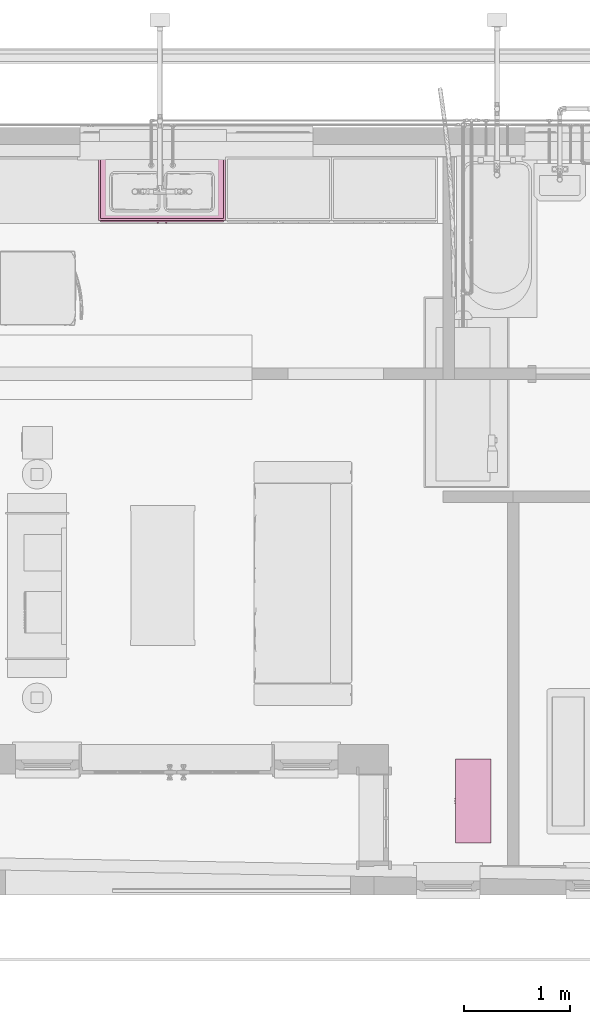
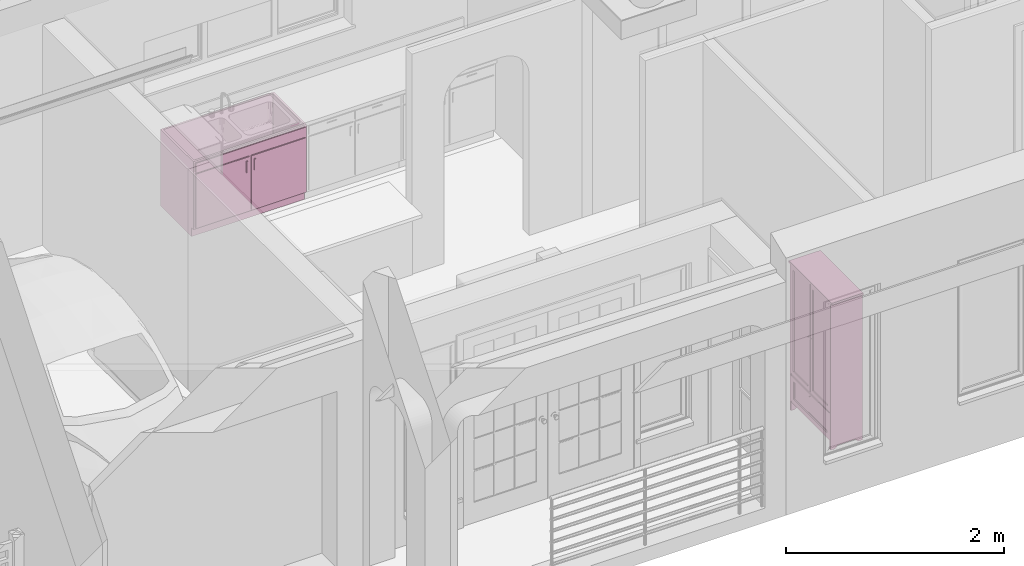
# One storey, part 39 of 41: 2 furnishings.
"""IFC2X3 building model written with IfcOpenShell, lengths in millimetres."""

from ifc_helpers import new_model, entity, si_unit, converted_unit, derived_unit, direction, frame, origin, place, context, subcontext, project, spatial, face_set, faceted_brep, surface_model, source, transform, mapped, material, material_list, type_object, type_shapes, element, save


model = new_model("IFC2X3")

# Units and contexts
model_context = context("Model", 3, precision=0.01, world=origin(), true_north=direction((6.12303176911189e-17, 1.0)))
body_context = subcontext(model_context, "Body", "Model", "MODEL_VIEW")
ifc_project = project(units=[si_unit("LENGTHUNIT", "METRE", prefix="MILLI"), si_unit("AREAUNIT", "SQUARE_METRE"), si_unit("VOLUMEUNIT", "CUBIC_METRE"), converted_unit("PLANEANGLEUNIT", "DEGREE", entity("IfcRatioMeasure", 0.0174532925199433), si_unit("PLANEANGLEUNIT", "RADIAN"), dimensions=[0, 0, 0, 0, 0, 0, 0]), si_unit("MASSUNIT", "GRAM", prefix="KILO"), derived_unit("MASSDENSITYUNIT", [(si_unit("MASSUNIT", "GRAM", prefix="KILO"), 1), (si_unit("LENGTHUNIT", "METRE"), -3)]), si_unit("TIMEUNIT", "SECOND"), si_unit("FREQUENCYUNIT", "HERTZ"), si_unit("THERMODYNAMICTEMPERATUREUNIT", "DEGREE_CELSIUS"), derived_unit("THERMALTRANSMITTANCEUNIT", [(si_unit("MASSUNIT", "GRAM", prefix="KILO"), 1), (si_unit("THERMODYNAMICTEMPERATUREUNIT", "KELVIN"), -1), (si_unit("TIMEUNIT", "SECOND"), -3)]), derived_unit("VOLUMETRICFLOWRATEUNIT", [(si_unit("LENGTHUNIT", "METRE"), 3), (si_unit("TIMEUNIT", "SECOND"), -1)]), si_unit("ELECTRICCURRENTUNIT", "AMPERE"), si_unit("ELECTRICVOLTAGEUNIT", "VOLT"), si_unit("POWERUNIT", "WATT"), si_unit("FORCEUNIT", "NEWTON", prefix="KILO"), si_unit("ILLUMINANCEUNIT", "LUX"), si_unit("LUMINOUSFLUXUNIT", "LUMEN"), si_unit("LUMINOUSINTENSITYUNIT", "CANDELA"), derived_unit("USERDEFINED", [(si_unit("MASSUNIT", "GRAM", prefix="KILO"), -1), (si_unit("LENGTHUNIT", "METRE"), -2), (si_unit("TIMEUNIT", "SECOND"), 3), (si_unit("LUMINOUSFLUXUNIT", "LUMEN"), 1)]), derived_unit("LINEARVELOCITYUNIT", [(si_unit("LENGTHUNIT", "METRE"), 1), (si_unit("TIMEUNIT", "SECOND"), -1)]), si_unit("PRESSUREUNIT", "PASCAL"), derived_unit("USERDEFINED", [(si_unit("LENGTHUNIT", "METRE"), -2), (si_unit("MASSUNIT", "GRAM", prefix="KILO"), 1), (si_unit("TIMEUNIT", "SECOND"), -2)])], contexts=[model_context])

# Site, building, storey, space
site_placement = place(None, origin())
site = spatial("IfcSite", under=ifc_project, at=site_placement, Name="Surface", CompositionType="ELEMENT")
building_placement = place(site_placement, origin())
building = spatial("IfcBuilding", under=site, at=building_placement, CompositionType="ELEMENT")
storey_placement = place(building_placement, frame((0.0, 0.0, 300.0)))
storey = spatial("IfcBuildingStorey", under=building, at=storey_placement, Name="F.F.L", CompositionType="ELEMENT", Elevation=300.0)
space_1_placement = place(storey_placement, origin())
space_1 = spatial("IfcSpace", under=storey, at=space_1_placement, Name="6", CompositionType="ELEMENT", InteriorOrExteriorSpace="INTERNAL")

# Furnishing
ifc_material_1 = material(Name="Glass")
ifc_material_2 = material(Name="Brushed Aluminium")
ifc_material_3 = material(Name="Oak")
ifc_material_list_1 = material_list([ifc_material_1, ifc_material_2, ifc_material_3])
ifc_material_list_2 = material_list([ifc_material_1, ifc_material_2, ifc_material_3])
furniture_type_1 = type_object("IfcFurnitureType", Name="IKEA_Smadal_Glass_Cabinet", AssemblyPlace="NOTDEFINED", material=ifc_material_list_2)
shared_shape_1 = source(origin(), body_context, "Body", "SurfaceModel", [
    surface_model("IfcFaceBasedSurfaceModel", [(315.0, -155.514604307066, 1595.0), (40.0, -155.514604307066, 1595.0), (40.0, -155.514604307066, 461.0), (315.0, -155.514604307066, 461.0), (315.0, -152.256842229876, 1595.0), (315.0, -152.256842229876, 461.0), (40.0, -152.256842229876, 461.0), (40.0, -152.256842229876, 1595.0), (-315.0, -155.514604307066, 1595.0), (-315.0, -155.514604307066, 461.0), (-40.0, -155.514604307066, 461.0), (-40.0, -155.514604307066, 1595.0), (-315.0, -152.256842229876, 1595.0), (-315.0, -152.256842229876, 461.0), (-40.0, -152.256842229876, 461.0), (-40.0, -152.256842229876, 1595.0)], [face_set([[[0, 1, 2, 3]], [[4, 5, 6, 7]], [[0, 3, 5, 4]], [[3, 2, 6, 5]], [[2, 1, 7, 6]], [[1, 0, 4, 7]]]), face_set([[[8, 9, 10, 11]], [[12, 13, 14, 15]], [[9, 8, 12, 13]], [[10, 14, 13, 9]], [[11, 15, 14, 10]], [[8, 11, 15, 12]]])]),
    surface_model("IfcFaceBasedSurfaceModel", [(20.0000010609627, -167.500004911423, 1035.20243740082), (20.0000010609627, -172.500008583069, 1035.20243740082), (22.2024170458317, -172.500008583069, 1033.00002822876), (22.2024170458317, -167.500004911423, 1033.00002822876), (20.0000010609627, -172.500008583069, 1030.7976190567), (20.0000010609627, -167.500004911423, 1030.7976190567), (17.7975839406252, -172.500008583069, 1033.00002822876), (17.7975839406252, -167.500004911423, 1033.00002822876), (20.0, -167.5, 1033.0), (20.0000010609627, -175.277418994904, 1037.93773555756), (23.3450889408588, -174.658506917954, 1035.08638343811), (23.4153244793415, -174.686539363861, 1030.95182476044), (26.3751683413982, -176.373027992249, 1030.76099338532), (20.0000010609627, -175.277418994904, 1028.06224822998), (26.7535972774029, -177.964536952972, 1033.00002822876), (20.0000010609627, -177.331272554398, 1040.61911258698), (20.0000010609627, -178.335789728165, 1037.78963413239), (24.9820143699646, -176.27168970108, 1037.33748149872), (23.6423296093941, -178.453733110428, 1033.00002822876), (20.0000010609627, -178.602107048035, 1033.00002822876), (20.0000010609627, -178.335789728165, 1028.21042232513), (20.0000010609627, -177.331272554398, 1025.38087120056), (16.6549109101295, -174.658506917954, 1030.91360034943), (13.246403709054, -177.964536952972, 1033.00002822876), (13.6248315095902, -176.373027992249, 1035.23899040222), (15.0179866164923, -176.27168970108, 1028.66250228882), (16.3576702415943, -178.453733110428, 1033.00002822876), (16.5846765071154, -174.686539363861, 1035.0481590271), (-22.2024170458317, -172.500008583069, 1033.00002822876), (-20.0000010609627, -172.500008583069, 1035.20243740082), (-20.0000010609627, -167.500004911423, 1035.20243740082), (-22.2024170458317, -167.500004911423, 1033.00002822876), (-20.0000010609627, -167.500004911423, 1030.7976190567), (-20.0000010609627, -172.500008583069, 1030.7976190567), (-17.7975839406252, -172.500008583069, 1033.00002822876), (-17.7975839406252, -167.500004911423, 1033.00002822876), (-20.0, -167.5, 1033.0), (-26.3720321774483, -177.964536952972, 1030.76208343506), (-20.0000010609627, -178.335789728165, 1028.21042232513), (-23.7355583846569, -178.445539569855, 1033.00002822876), (-20.0000010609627, -178.602107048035, 1033.00002822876), (-26.756921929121, -176.373027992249, 1033.00002822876), (-20.0000010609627, -177.331272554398, 1040.61911258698), (-20.0000010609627, -175.277418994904, 1037.93773555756), (-23.6305525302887, -174.771781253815, 1034.92236728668), (-24.8980442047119, -178.108405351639, 1036.80161304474), (-20.0000010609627, -178.335789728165, 1037.78963413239), (-23.2155433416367, -174.606257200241, 1030.84674396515), (-20.0000010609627, -177.331272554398, 1025.38087120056), (-20.0000010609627, -175.277418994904, 1028.06224822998), (-13.6279676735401, -177.964536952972, 1035.23790035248), (-16.2644414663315, -178.445539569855, 1033.00002822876), (-13.2430790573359, -176.373027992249, 1033.00002822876), (-16.3694473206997, -174.771781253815, 1031.07761650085), (-15.101956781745, -178.108405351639, 1029.1983707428), (-16.7844565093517, -174.606257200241, 1035.15331249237), (-2.20241626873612, -172.500008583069, 376.00001449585), (0.0, -172.500008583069, 378.202423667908), (0.0, -167.500004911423, 378.202423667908), (-2.20241626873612, -167.500004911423, 376.00001449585), (0.0, -167.500004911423, 373.7975689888), (0.0, -172.500008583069, 373.7975689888), (2.20241626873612, -172.500008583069, 376.00001449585), (2.20241626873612, -167.500004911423, 376.00001449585), (0.0, -167.5, 376.0), (-6.37203225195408, -177.964536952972, 373.762069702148), (0.0, -178.335789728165, 371.210408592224), (-3.73555902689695, -178.445539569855, 376.00001449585), (0.0, -178.602107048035, 376.00001449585), (-6.75692143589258, -176.373027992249, 376.00001449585), (0.0, -177.331272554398, 383.619098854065), (0.0, -175.277418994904, 380.937721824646), (-3.63055203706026, -174.771781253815, 377.922389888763), (-4.89804314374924, -178.108405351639, 379.801599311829), (0.0, -178.335789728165, 380.789620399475), (-3.21554313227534, -174.606257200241, 373.846693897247), (0.0, -177.331272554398, 368.380893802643), (0.0, -175.277418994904, 371.062270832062), (6.37203225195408, -177.964536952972, 378.237922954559), (3.73555874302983, -178.445539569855, 376.00001449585), (6.75692086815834, -176.373027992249, 376.00001449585), (3.63055232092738, -174.771781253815, 374.077639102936), (4.898042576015, -178.108405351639, 372.198393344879), (3.21554313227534, -174.606257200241, 378.15329875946)], [face_set([[[0, 1, 2, 3]], [[4, 5, 3, 2]], [[5, 4, 6, 7]], [[1, 0, 7, 6]], [[8, 5, 3, 0]], [[8, 0, 7, 5]], [[1, 9, 10]], [[11, 12, 13]], [[14, 15, 16]], [[12, 17, 14]], [[18, 16, 19]], [[18, 20, 14]], [[9, 15, 17]], [[10, 9, 17]], [[19, 20, 18]], [[14, 17, 15]], [[4, 11, 13]], [[2, 11, 4]], [[18, 14, 16]], [[12, 11, 10]], [[12, 14, 21]], [[12, 21, 13]], [[21, 14, 20]], [[10, 11, 2]], [[1, 10, 2]], [[12, 10, 17]], [[4, 13, 22]], [[23, 21, 20]], [[24, 15, 9]], [[24, 25, 23]], [[26, 20, 19]], [[26, 16, 23]], [[13, 21, 25]], [[22, 13, 25]], [[19, 16, 26]], [[23, 25, 21]], [[27, 24, 9]], [[6, 27, 1]], [[22, 24, 27]], [[23, 15, 24]], [[22, 27, 6]], [[1, 27, 9]], [[15, 23, 16]], [[24, 22, 25]], [[4, 22, 6]], [[26, 23, 20]]]), face_set([[[28, 29, 30, 31]], [[31, 32, 33, 28]], [[34, 33, 32, 35]], [[35, 30, 29, 34]], [[32, 36, 30, 31]], [[30, 36, 32, 35]], [[37, 38, 39]], [[40, 39, 38]], [[41, 42, 43]], [[41, 43, 44]], [[41, 37, 45]], [[46, 42, 45]], [[39, 40, 46]], [[47, 44, 28]], [[29, 44, 43]], [[46, 45, 39]], [[41, 45, 42]], [[29, 28, 44]], [[37, 41, 48]], [[48, 41, 49]], [[47, 33, 49]], [[37, 48, 38]], [[41, 47, 49]], [[37, 39, 45]], [[41, 44, 47]], [[33, 47, 28]], [[50, 46, 51]], [[50, 42, 46]], [[52, 48, 49]], [[52, 49, 53]], [[40, 51, 46]], [[52, 50, 54]], [[50, 51, 54]], [[51, 40, 38]], [[38, 48, 54]], [[51, 38, 54]], [[33, 34, 53]], [[50, 52, 42]], [[42, 52, 43]], [[55, 29, 43]], [[33, 53, 49]], [[52, 55, 43]], [[29, 55, 34]], [[55, 53, 34]], [[52, 53, 55]], [[52, 54, 48]]]), face_set([[[56, 57, 58, 59]], [[59, 60, 61, 56]], [[62, 61, 60, 63]], [[63, 58, 57, 62]], [[60, 64, 58, 59]], [[58, 64, 60, 63]], [[65, 66, 67]], [[68, 67, 66]], [[69, 70, 71]], [[69, 71, 72]], [[69, 65, 73]], [[74, 70, 73]], [[67, 68, 74]], [[75, 72, 56]], [[57, 72, 71]], [[74, 73, 67]], [[69, 73, 70]], [[57, 56, 72]], [[65, 69, 76]], [[76, 69, 77]], [[75, 61, 77]], [[65, 76, 66]], [[69, 75, 77]], [[65, 67, 73]], [[69, 72, 75]], [[61, 75, 56]], [[78, 74, 79]], [[78, 70, 74]], [[80, 76, 77]], [[80, 77, 81]], [[68, 79, 74]], [[80, 78, 82]], [[78, 79, 82]], [[79, 68, 66]], [[66, 76, 82]], [[79, 66, 82]], [[61, 62, 81]], [[78, 80, 70]], [[70, 80, 71]], [[83, 57, 71]], [[61, 81, 77]], [[80, 83, 71]], [[57, 83, 62]], [[83, 81, 62]], [[80, 81, 83]], [[80, 82, 76]]])]),
    surface_model("IfcFaceBasedSurfaceModel", [(353.0, -167.499999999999, 423.0), (353.0, -167.499999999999, 1633.0), (2.0, -167.499999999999, 1633.0), (2.0, -167.499999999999, 423.0), (313.0, -167.499999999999, 463.0), (42.0, -167.499999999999, 463.0), (42.0, -167.499999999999, 1593.0), (313.0, -167.499999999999, 1593.0), (353.0, -142.499999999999, 423.0), (353.0, -142.499999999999, 1633.0), (2.0, -142.499999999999, 1633.0), (2.0, -142.499999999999, 423.0), (313.0, -142.499999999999, 463.0), (42.0, -142.499999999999, 463.0), (42.0, -142.499999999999, 1593.0), (313.0, -142.499999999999, 1593.0), (-353.0, -167.499999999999, 423.0), (-2.0, -167.499999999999, 423.0), (-2.0, -167.499999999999, 1633.0), (-353.0, -167.499999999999, 1633.0), (-313.0, -167.499999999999, 463.0), (-313.0, -167.499999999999, 1593.0), (-42.0, -167.499999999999, 1593.0), (-42.0, -167.499999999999, 463.0), (-353.0, -142.499999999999, 423.0), (-2.0, -142.499999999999, 423.0), (-2.0, -142.499999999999, 1633.0), (-353.0, -142.499999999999, 1633.0), (-313.0, -142.499999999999, 463.0), (-313.0, -142.499999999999, 1593.0), (-42.0, -142.499999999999, 1593.0), (-42.0, -142.499999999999, 463.0), (-300.928932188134, -160.428932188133, 164.07106781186), (-308.0, -167.499999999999, 157.0), (308.0, -167.499999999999, 157.0), (300.928932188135, -160.428932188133, 164.071067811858), (-296.946041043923, -157.925665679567, 168.053958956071), (-296.946041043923, -160.428932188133, 168.053958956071), (296.946041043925, -160.428932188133, 168.053958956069), (296.946041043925, -157.925665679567, 168.053958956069), (-353.0, -167.499999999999, 112.0), (353.0, -167.499999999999, 112.0), (353.0, -147.925665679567, 112.0), (-353.0, -147.925665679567, 112.0), (300.928932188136, -160.428932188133, 346.928932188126), (308.0, -167.499999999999, 354.0), (296.946041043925, -157.925665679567, 342.946041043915), (296.946041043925, -160.428932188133, 342.946041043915), (353.0, -147.925665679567, 399.0), (353.0, -167.499999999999, 399.0), (-300.928932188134, -160.428932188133, 346.928932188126), (-308.0, -167.499999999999, 354.0), (-296.946041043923, -157.925665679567, 342.946041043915), (-296.946041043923, -160.428932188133, 342.946041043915), (-353.0, -147.925665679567, 399.0), (-353.0, -167.499999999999, 399.0), (20.0, 167.5, 1635.0), (-20.0, 167.5, 1635.0), (-20.0, 152.5, 1635.0), (20.0, 152.5, 1635.0), (20.0, 167.5, 110.0), (-20.0, 167.5, 110.0), (-20.0, 152.5, 110.0), (20.0, 152.5, 110.0), (355.0, -159.550763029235, 421.0), (-355.0, -159.550763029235, 421.0), (-355.0, -159.550763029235, 401.0), (355.0, -159.550763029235, 401.0), (355.0, 167.5, 421.0), (355.0, 167.5, 401.0), (-355.0, 167.5, 401.0), (-355.0, 167.5, 421.0), (-355.0, -159.550763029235, 110.0), (355.0, -159.550763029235, 110.0), (355.0, 167.5, 110.0), (-355.0, 167.5, 110.0), (-355.0, -159.550763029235, 90.0), (-355.0, 167.5, 90.0), (355.0, -159.550763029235, 90.0), (355.0, 167.5, 90.0), (355.0, -142.5, 1354.0), (-355.0, -142.5, 1354.0), (-355.0, -142.5, 1334.0), (355.0, -142.5, 1334.0), (355.0, 167.5, 1354.0), (355.0, 167.5, 1334.0), (-355.0, 167.5, 1334.0), (-355.0, 167.5, 1354.0), (-355.0, -142.5, 1043.0), (355.0, -142.5, 1043.0), (355.0, 167.5, 1043.0), (-355.0, 167.5, 1043.0), (-355.0, -142.5, 1023.0), (-355.0, 167.5, 1023.0), (355.0, -142.5, 1023.0), (355.0, 167.5, 1023.0), (-355.0, -142.5, 732.0), (355.0, -142.5, 732.0), (355.0, 167.5, 732.0), (-355.0, 167.5, 732.0), (-355.0, -142.5, 712.0), (-355.0, 167.5, 712.0), (355.0, -142.5, 712.0), (355.0, 167.5, 712.0), (355.0, -167.5, 1635.0), (355.0, -167.5, 0.0), (375.0, -167.5, 0.0), (375.0, -167.5, 1635.0), (355.0, -127.5, 0.0), (355.0, -124.885524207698, 0.947552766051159), (355.0, -121.979145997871, 2.43094157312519), (355.0, -118.868056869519, 4.3722167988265), (355.0, -115.639448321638, 6.69342882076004), (355.0, -112.380511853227, 9.31662801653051), (355.0, -109.178438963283, 12.1638647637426), (355.0, -106.120421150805, 15.1571894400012), (355.0, -103.293649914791, 18.2186524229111), (355.0, -100.785316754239, 21.2703040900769), (355.0, -98.6826131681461, 24.2341948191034), (355.0, -97.072730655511, 27.0323749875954), (355.0, -96.0428607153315, 29.5868949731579), (355.0, -95.6801948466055, 31.8198051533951), (355.0, 95.6801948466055, 31.8198051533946), (355.0, 96.0428607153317, 29.5868949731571), (355.0, 97.0727306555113, 27.0323749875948), (355.0, 98.6826131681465, 24.2341948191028), (355.0, 100.785316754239, 21.2703040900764), (355.0, 103.293649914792, 18.2186524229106), (355.0, 106.120421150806, 15.1571894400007), (355.0, 109.178438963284, 12.1638647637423), (355.0, 112.380511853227, 9.31662801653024), (355.0, 115.639448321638, 6.69342882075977), (355.0, 118.868056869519, 4.37221679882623), (355.0, 121.979145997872, 2.43094157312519), (355.0, 124.885524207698, 0.947552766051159), (355.0, 127.5, 0.0), (355.0, 167.5, 0.0), (355.0, 167.5, 1635.0), (375.0, -127.5, 0.0), (375.0, -124.885524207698, 0.94755276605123), (375.0, -121.979145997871, 2.43094157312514), (375.0, -118.868056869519, 4.37221679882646), (375.0, -115.639448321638, 6.69342882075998), (375.0, -112.380511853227, 9.31662801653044), (375.0, -109.178438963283, 12.1638647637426), (375.0, -106.120421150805, 15.1571894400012), (375.0, -103.293649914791, 18.2186524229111), (375.0, -100.785316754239, 21.2703040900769), (375.0, -98.6826131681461, 24.2341948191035), (375.0, -97.072730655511, 27.0323749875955), (375.0, -96.0428607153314, 29.5868949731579), (375.0, -95.6801948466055, 31.8198051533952), (375.0, 95.6801948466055, 31.8198051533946), (375.0, 96.0428607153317, 29.5868949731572), (375.0, 97.0727306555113, 27.0323749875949), (375.0, 98.6826131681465, 24.2341948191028), (375.0, 100.785316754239, 21.2703040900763), (375.0, 103.293649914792, 18.2186524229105), (375.0, 106.120421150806, 15.1571894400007), (375.0, 109.178438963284, 12.1638647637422), (375.0, 112.380511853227, 9.31662801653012), (375.0, 115.639448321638, 6.69342882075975), (375.0, 118.868056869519, 4.37221679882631), (375.0, 121.979145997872, 2.43094157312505), (375.0, 124.885524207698, 0.947552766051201), (375.0, 127.5, 0.0), (375.0, 167.5, 0.0), (375.0, 167.5, 1635.0), (-355.0, 167.5, 1635.0), (-355.0, 167.5, 0.0), (-375.0, 167.5, 0.0), (-375.0, 167.5, 1635.0), (-375.0, -167.5, 1635.0), (-355.0, -167.5, 1635.0), (-375.0, -167.5, 0.0), (-375.0, 127.5, 0.0), (-375.0, 124.885524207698, 0.947552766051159), (-375.0, 121.979145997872, 2.43094157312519), (-375.0, 118.868056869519, 4.37221679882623), (-375.0, 115.639448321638, 6.69342882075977), (-375.0, 112.380511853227, 9.31662801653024), (-375.0, 109.178438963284, 12.1638647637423), (-375.0, 106.120421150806, 15.1571894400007), (-375.0, 103.293649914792, 18.2186524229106), (-375.0, 100.785316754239, 21.2703040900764), (-375.0, 98.6826131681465, 24.2341948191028), (-375.0, 97.0727306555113, 27.0323749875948), (-375.0, 96.0428607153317, 29.5868949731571), (-375.0, 95.6801948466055, 31.8198051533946), (-375.0, -95.6801948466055, 31.8198051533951), (-375.0, -96.0428607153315, 29.5868949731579), (-375.0, -97.072730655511, 27.0323749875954), (-375.0, -98.6826131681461, 24.2341948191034), (-375.0, -100.785316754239, 21.2703040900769), (-375.0, -103.293649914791, 18.2186524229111), (-375.0, -106.120421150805, 15.1571894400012), (-375.0, -109.178438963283, 12.1638647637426), (-375.0, -112.380511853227, 9.31662801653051), (-375.0, -115.639448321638, 6.69342882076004), (-375.0, -118.868056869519, 4.3722167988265), (-375.0, -121.979145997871, 2.43094157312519), (-375.0, -124.885524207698, 0.947552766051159), (-375.0, -127.5, 0.0), (-355.0, -167.5, 0.0), (-355.0, -127.5, 0.0), (-355.0, 127.5, 0.0), (-355.0, 124.885524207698, 0.947552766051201), (-355.0, 121.979145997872, 2.43094157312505), (-355.0, 118.868056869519, 4.37221679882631), (-355.0, 115.639448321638, 6.69342882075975), (-355.0, 112.380511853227, 9.31662801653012), (-355.0, 109.178438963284, 12.1638647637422), (-355.0, 106.120421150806, 15.1571894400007), (-355.0, 103.293649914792, 18.2186524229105), (-355.0, 100.785316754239, 21.2703040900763), (-355.0, 98.6826131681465, 24.2341948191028), (-355.0, 97.0727306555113, 27.0323749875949), (-355.0, 96.0428607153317, 29.5868949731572), (-355.0, 95.6801948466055, 31.8198051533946), (-355.0, -95.6801948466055, 31.8198051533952), (-355.0, -96.0428607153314, 29.5868949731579), (-355.0, -97.072730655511, 27.0323749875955), (-355.0, -98.6826131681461, 24.2341948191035), (-355.0, -100.785316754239, 21.2703040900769), (-355.0, -103.293649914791, 18.2186524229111), (-355.0, -106.120421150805, 15.1571894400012), (-355.0, -109.178438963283, 12.1638647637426), (-355.0, -112.380511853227, 9.31662801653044), (-355.0, -115.639448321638, 6.69342882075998), (-355.0, -118.868056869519, 4.37221679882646), (-355.0, -121.979145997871, 2.43094157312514), (-355.0, -124.885524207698, 0.94755276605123), (395.0, -167.5, 1655.0), (-395.0, -167.5, 1655.0), (-395.0, -167.5, 1635.0), (395.0, -167.5, 1635.0), (395.0, 167.5, 1655.0), (395.0, 167.5, 1635.0), (-395.0, 167.5, 1635.0), (-395.0, 167.5, 1655.0)], [face_set([[[0, 1, 2, 3], [4, 5, 6, 7]], [[8, 9, 10, 11], [12, 13, 14, 15]], [[0, 8, 11, 3]], [[3, 11, 10, 2]], [[2, 1, 9, 10]], [[1, 0, 8, 9]], [[4, 12, 15, 7]], [[7, 15, 14, 6]], [[6, 5, 13, 14]], [[5, 4, 12, 13]]]), face_set([[[16, 17, 18, 19], [20, 21, 22, 23]], [[24, 25, 26, 27], [28, 29, 30, 31]], [[17, 25, 24, 16]], [[18, 26, 25, 17]], [[19, 18, 26, 27]], [[16, 19, 27, 24]], [[21, 29, 28, 20]], [[22, 30, 29, 21]], [[23, 22, 30, 31]], [[20, 23, 31, 28]]]), face_set([[[32, 33, 34, 35]], [[36, 37, 38, 39]], [[40, 41, 42, 43]], [[35, 44, 45, 34]], [[39, 46, 47, 38]], [[41, 42, 48, 49]], [[44, 50, 51, 45]], [[46, 52, 53, 47]], [[49, 48, 54, 55]], [[33, 51, 50, 32]], [[32, 35, 44, 50], [38, 37, 53, 47]], [[37, 53, 52, 36]], [[36, 39, 46, 52]], [[42, 48, 54, 43]], [[43, 40, 55, 54]], [[40, 41, 49, 55], [34, 33, 51, 45]]]), face_set([[[56, 57, 58, 59]], [[60, 61, 62, 63]], [[57, 56, 60, 61]], [[58, 57, 61, 62]], [[59, 63, 62, 58]], [[56, 59, 63, 60]]]), face_set([[[64, 65, 66, 67]], [[68, 69, 70, 71]], [[65, 64, 68, 71]], [[66, 65, 71, 70]], [[67, 69, 70, 66]], [[64, 67, 69, 68]]]), face_set([[[72, 73, 74, 75]], [[76, 72, 75, 77]], [[78, 79, 77, 76]], [[73, 78, 79, 74]], [[74, 79, 77, 75]], [[73, 72, 76, 78]]]), face_set([[[80, 81, 82, 83]], [[84, 85, 86, 87]], [[81, 80, 84, 87]], [[82, 81, 87, 86]], [[83, 85, 86, 82]], [[80, 83, 85, 84]]]), face_set([[[88, 89, 90, 91]], [[92, 88, 91, 93]], [[94, 95, 93, 92]], [[89, 94, 95, 90]], [[90, 95, 93, 91]], [[89, 88, 92, 94]]]), face_set([[[96, 97, 98, 99]], [[100, 96, 99, 101]], [[102, 103, 101, 100]], [[97, 102, 103, 98]], [[98, 103, 101, 99]], [[97, 96, 100, 102]]]), face_set([[[104, 105, 106, 107]], [[105, 108, 109, 110, 111, 112, 113, 114, 115, 116, 117, 118, 119, 120, 121, 122, 123, 124, 125, 126, 127, 128, 129, 130, 131, 132, 133, 134, 135, 136, 137, 104]], [[106, 105, 108, 138]], [[107, 106, 138, 139, 140, 141, 142, 143, 144, 145, 146, 147, 148, 149, 150, 151, 152, 153, 154, 155, 156, 157, 158, 159, 160, 161, 162, 163, 164, 165, 166, 167]], [[104, 107, 167, 137]], [[151, 150, 120, 121]], [[150, 149, 119, 120]], [[148, 147, 117, 118]], [[147, 146, 116, 117]], [[149, 148, 118, 119]], [[146, 145, 115, 116]], [[114, 115, 145, 144]], [[144, 143, 113, 114]], [[143, 142, 112, 113]], [[141, 140, 110, 111]], [[140, 139, 109, 110]], [[142, 141, 111, 112]], [[139, 138, 108, 109]], [[165, 164, 134, 135]], [[164, 163, 133, 134]], [[162, 161, 131, 132]], [[161, 160, 130, 131]], [[163, 162, 132, 133]], [[160, 159, 129, 130]], [[128, 129, 159, 158]], [[158, 157, 127, 128]], [[157, 156, 126, 127]], [[155, 154, 124, 125]], [[154, 153, 123, 124]], [[156, 155, 125, 126]], [[153, 152, 122, 123]], [[151, 152, 122, 121]], [[136, 166, 165, 135]], [[137, 167, 166, 136]]]), face_set([[[168, 169, 170, 171]], [[172, 173, 168, 171]], [[174, 172, 171, 170, 175, 176, 177, 178, 179, 180, 181, 182, 183, 184, 185, 186, 187, 188, 189, 190, 191, 192, 193, 194, 195, 196, 197, 198, 199, 200, 201, 202]], [[203, 174, 202, 204]], [[173, 168, 169, 205, 206, 207, 208, 209, 210, 211, 212, 213, 214, 215, 216, 217, 218, 219, 220, 221, 222, 223, 224, 225, 226, 227, 228, 229, 230, 231, 204, 203]], [[219, 218, 188, 189]], [[205, 206, 176, 175]], [[206, 207, 177, 176]], [[208, 209, 179, 178]], [[209, 210, 180, 179]], [[207, 208, 178, 177]], [[210, 211, 181, 180]], [[182, 181, 211, 212]], [[212, 213, 183, 182]], [[213, 214, 184, 183]], [[215, 216, 186, 185]], [[216, 217, 187, 186]], [[214, 215, 185, 184]], [[217, 218, 188, 187]], [[219, 220, 190, 189]], [[220, 221, 191, 190]], [[222, 223, 193, 192]], [[223, 224, 194, 193]], [[221, 222, 192, 191]], [[224, 225, 195, 194]], [[196, 195, 225, 226]], [[226, 227, 197, 196]], [[227, 228, 198, 197]], [[229, 230, 200, 199]], [[230, 231, 201, 200]], [[228, 229, 199, 198]], [[231, 204, 202, 201]], [[170, 169, 205, 175]], [[173, 172, 174, 203]]]), face_set([[[232, 233, 234, 235]], [[236, 237, 238, 239]], [[233, 232, 236, 239]], [[234, 233, 239, 238]], [[235, 237, 238, 234]], [[232, 235, 237, 236]]])]),
])
type_shapes(furniture_type_1, [shared_shape_1])
furnishing_1_placement = place(space_1_placement, frame((-4299.82411609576, 4467.78903517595, 0.0), z_axis=(0.0, 0.0, 1.0), x_axis=(0.0, -1.0, 0.0)))
element("IfcFurnishingElement", 1, at=furnishing_1_placement, inside=space_1, type_object=furniture_type_1, material=ifc_material_list_1, Name="IKEA_Smadal_Glass_Cabinet:IKEA_Smadal_Glass_Cabinet", ObjectType="IKEA_Smadal_Glass_Cabinet", context=body_context, shape_type="MappedRepresentation", body=[
    mapped(shared_shape_1, transform((0.0, 0.0, 0.0), scale=1.0)),
])

# Space
space_2_placement = place(storey_placement, origin())
space_2 = spatial("IfcSpace", under=storey, at=space_2_placement, Name="2", CompositionType="ELEMENT", InteriorOrExteriorSpace="INTERNAL")

# Furnishing
ifc_material_4 = material(Name="Cabinets")
ifc_material_5 = material(Name="Cabinets - Handles")
ifc_material_list_3 = material_list([ifc_material_4, ifc_material_5])
ifc_material_list_4 = material_list([ifc_material_4, ifc_material_5])
furniture_type_2 = type_object("IfcFurnitureType", Name="1200mm", AssemblyPlace="NOTDEFINED", material=ifc_material_list_4)
shared_shape_2 = source(origin(), body_context, "Body", "Brep", [
    faceted_brep([(599.687704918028, -580.950000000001, 860.0), (599.687704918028, -580.950000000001, 100.0), (-562.212295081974, -580.950000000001, 100.0), (-562.212295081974, -580.950000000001, 860.0), (-581.262295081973, -600.0, 860.0), (618.737704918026, -600.0, 860.0), (-581.262295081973, -600.0, 100.0), (618.737704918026, -600.0, 100.0), (-562.212295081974, -565.0, 100.0), (-562.212295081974, -19.0499999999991, 100.0), (-562.212295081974, -19.0499999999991, 860.0), (-581.262295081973, 0.0, 860.0), (-581.262295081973, 0.0, 0.0), (-581.262295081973, -565.0, 0.0), (-581.262295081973, -565.0, 100.0), (599.687704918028, -19.049999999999, 100.0), (599.687704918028, -19.049999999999, 860.0), (618.737704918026, 0.0, 860.0), (618.737704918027, 0.0, 0.0), (599.687704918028, -565.0, 100.0), (618.737704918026, -565.0, 100.0), (618.737704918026, -565.0, 0.0)], [[[0, 1, 2, 3]], [[0, 3, 4, 5]], [[5, 4, 6, 7]], [[2, 1, 7, 6]], [[3, 2, 8, 9, 10]], [[4, 3, 10, 11]], [[6, 4, 11, 12, 13, 14]], [[2, 6, 14, 8]], [[10, 9, 15, 16]], [[11, 10, 16, 17]], [[12, 11, 17, 18]], [[1, 0, 16, 15, 19]], [[0, 5, 17, 16]], [[5, 7, 20, 21, 18, 17]], [[7, 1, 19, 20]], [[8, 19, 15, 9]], [[18, 21, 13, 12]], [[13, 21, 20, 19, 8, 14]]]),
    faceted_brep([(66.3627049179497, -625.4, 682.20000000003), (53.6627049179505, -625.4, 682.20000000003), (53.6627049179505, -625.4, 557.469895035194), (66.3627049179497, -625.4, 557.469895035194), (66.3627049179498, -612.7, 682.20000000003), (53.6627049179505, -612.7, 682.20000000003), (53.6627049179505, -612.7, 557.469895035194), (66.3627049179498, -612.7, 557.469895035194)], [[[0, 1, 2, 3]], [[1, 0, 4, 5]], [[2, 1, 5, 6]], [[3, 2, 6, 7]], [[0, 3, 7, 4]], [[4, 7, 6, 5]]]),
    faceted_brep([(-16.1872950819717, -612.7, 682.200000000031), (-16.1872950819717, -612.7, 557.469895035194), (-28.8872950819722, -612.7, 557.469895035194), (-28.8872950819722, -612.7, 682.200000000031), (-28.8872950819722, -625.4, 682.200000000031), (-16.1872950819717, -625.4, 682.200000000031), (-28.8872950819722, -625.4, 557.469895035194), (-16.1872950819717, -625.4, 557.469895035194)], [[[0, 1, 2, 3]], [[4, 5, 0, 3]], [[6, 4, 3, 2]], [[7, 6, 2, 1]], [[5, 7, 1, 0]], [[5, 4, 6, 7]]]),
    faceted_brep([(599.687704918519, -612.700000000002, 840.950000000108), (-562.2122950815, -612.699999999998, 840.950000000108), (-562.2122950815, -612.699999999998, 739.350000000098), (599.68770491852, -612.700000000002, 739.350000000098), (599.687704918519, -600.0, 840.950000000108), (-562.2122950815, -600.0, 840.950000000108), (-562.2122950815, -600.0, 739.350000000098), (599.68770491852, -600.0, 739.350000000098)], [[[0, 1, 2, 3]], [[1, 0, 4, 5]], [[2, 1, 5, 6]], [[3, 2, 6, 7]], [[0, 3, 7, 4]], [[4, 7, 6, 5]]]),
    faceted_brep([(9.21270491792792, -600.0, 720.300000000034), (9.212704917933, -600.0, 119.049999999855), (-562.21229508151, -600.0, 119.049999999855), (-562.21229508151, -600.0, 720.300000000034), (-562.21229508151, -612.699999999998, 720.300000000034), (9.21270491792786, -612.7, 720.300000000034), (-562.21229508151, -612.699999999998, 119.049999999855), (9.21270491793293, -612.7, 119.049999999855)], [[[0, 1, 2, 3]], [[4, 5, 0, 3]], [[6, 4, 3, 2]], [[7, 6, 2, 1]], [[5, 7, 1, 0]], [[5, 4, 6, 7]]]),
    faceted_brep([(28.2627049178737, -612.7, 720.300000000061), (599.687704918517, -612.700000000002, 720.300000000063), (599.687704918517, -600.0, 720.300000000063), (28.2627049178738, -600.0, 720.300000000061), (28.2627049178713, -612.7, 119.04999999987), (28.2627049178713, -600.0, 119.04999999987), (599.687704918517, -612.700000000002, 119.04999999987), (599.687704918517, -600.0, 119.04999999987)], [[[0, 1, 2, 3]], [[4, 0, 3, 5]], [[6, 4, 5, 7]], [[1, 6, 7, 2]], [[2, 7, 5, 3]], [[1, 0, 4, 6]]]),
    faceted_brep([(599.687704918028, -19.0499999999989, 119.049999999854), (-562.212295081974, -19.0499999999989, 119.049999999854), (-562.212295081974, -580.950000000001, 119.049999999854), (599.687704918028, -580.950000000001, 119.049999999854), (599.687704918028, -19.0499999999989, 100.0), (599.687704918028, -580.950000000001, 100.0), (-562.212295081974, -580.950000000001, 100.0), (-562.212295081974, -19.0499999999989, 100.0)], [[[0, 1, 2, 3]], [[4, 5, 6, 7]], [[1, 0, 4, 7]], [[2, 1, 7, 6]], [[3, 2, 6, 5]], [[0, 3, 5, 4]]]),
])
type_shapes(furniture_type_2, [shared_shape_2])
furnishing_2_placement = place(space_2_placement, frame((-7255.61287499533, 10545.8400891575, 0.0)))
element("IfcFurnishingElement", 2, at=furnishing_2_placement, inside=space_2, type_object=furniture_type_2, material=ifc_material_list_3, Name="M_Base Cabinet-Double Door Sink Unit:1200mm", ObjectType="1200mm", context=body_context, shape_type="MappedRepresentation", body=[
    mapped(shared_shape_2, transform((0.0, 0.0, 0.0), scale=1.0)),
])

save(model, "model.ifc")
